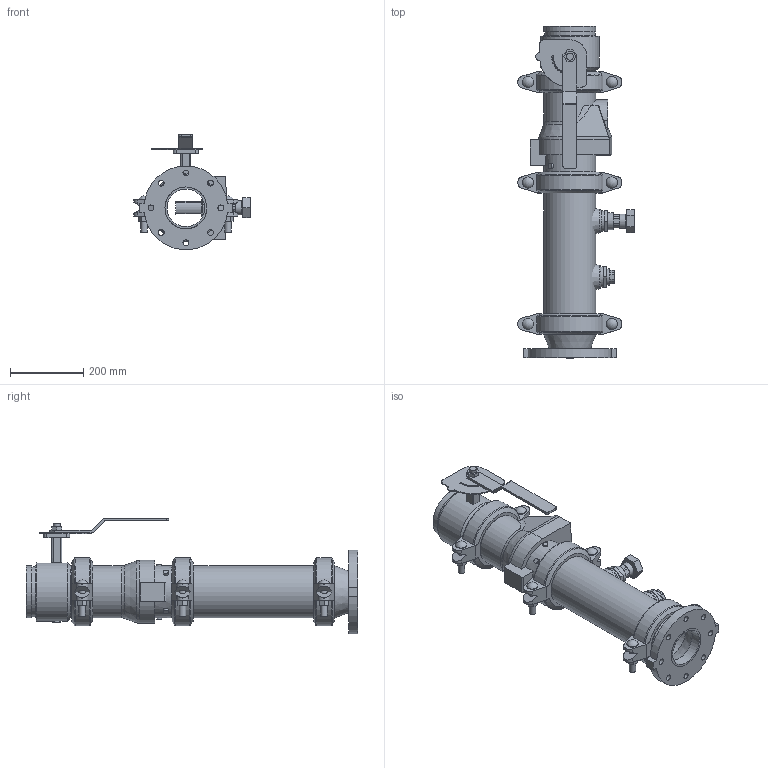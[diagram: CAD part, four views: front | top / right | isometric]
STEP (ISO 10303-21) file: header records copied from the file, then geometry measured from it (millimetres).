
FILE_DESCRIPTION(/* description */ ('VIC DVI PUMP DROP VERT S/380 (OGSxFLG) (S/924-1.25)','CAx-IF Rec.Pracs.---Representation and Presentation of Product Manufacturing Information (PMI)---4.0---2014-10-13'),/* implementation_level */ '2;1');
FILE_NAME(/* name */ 'C:\Users\Public\Documents\Victaulic.Temp\A765\Victaulic_IPS_Vertical DVI_CL 150_Series 380 (OGSxFLG)_924 (1.25)_05.0x04.0 (125x100).stp',/* time_stamp */ '2022-07-25T11:11:40+02:00',/* author */ ('Vjadhav'),/* organization */ ('Victaulic'),/* preprocessor_version */ 'ST-DEVELOPER v18',/* originating_system */ 'Autodesk Inventor 2020',/* authorisation */ '');
FILE_SCHEMA (('AP242_MANAGED_MODEL_BASED_3D_ENGINEERING_MIM_LF { 1 0 10303 442 1 1 4 }'));
Length unit declared in the file: inch
Products named in the file (9): 380_924 (1.25)-05.0x04.0; 741-04.0; 050-05.0x04.0; Pipe-05.0; 177N-05.0; 761-05.0; 779-05.0; 923-04.0x0.75; 924-04.0x01.25
Assembly tree (10 placements, depth 2):
  380_924 (1.25)-05.0x04.0
    741-04.0
    050-05.0x04.0
    177N-05.0  x3
    Pipe-05.0
    761-05.0
    779-05.0
    923-04.0x0.75
    924-04.0x01.25
Bounding box: 317.31 x 904.88 x 314.29 mm (x, y, z)
Volume: 8006210.9 mm3; surface area: 1430762.2 mm2
Topology: 10 solids, 12 shells, 605 faces, 1573 edges, 1053 vertices
Faces by surface type: plane 356, cylinder 203, cone 20, torus 18, sphere 6, bspline 2
Full cylindrical faces by diameter (mm): 4.826 x10, 8.636 x4, 13.716 x4, 15.875 x8, 17.78 x6, 19.05 x2, 21.336 x1, 22.86 x1, 26.67 x2, 30.48 x6, 38.608 x1, 42.164 x1, 45.974 x4, 48.514 x1, 55.118 x1, 55.626 x2, 102.26 x1, 110.084 x1, 114.3 x3, 128.194 x4, 128.6 x3, 137.033 x7, 141.3 x19, 160.02 x1
Entity records: 14476 total; most frequent: CARTESIAN_POINT 2858, DIRECTION 2392, ORIENTED_EDGE 2174, EDGE_CURVE 1087, AXIS2_PLACEMENT_3D 907, VERTEX_POINT 733, LINE 578, VECTOR 578
